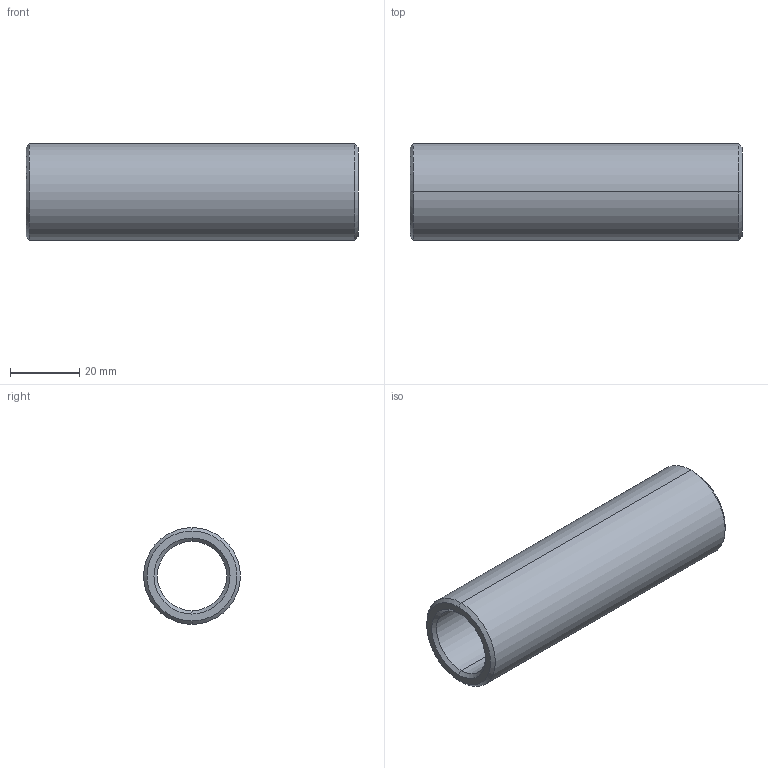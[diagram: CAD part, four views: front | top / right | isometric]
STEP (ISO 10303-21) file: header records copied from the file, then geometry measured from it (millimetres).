
FILE_DESCRIPTION(('CATIA V5 STEP Exchange'),'2;1');
FILE_NAME('C:\Users\Utente\Desktop\IO LAVORO\3D X SITO CF\X SITO\PLASTICA\352\352-20X96.stp','2021-04-15T06:14:25+00:00',('none'),('none'),'CATIA Version 5 Release 20 GA (IN-10)','CATIA V5 STEP AP203','none');
FILE_SCHEMA(('CONFIG_CONTROL_DESIGN'));
Length unit declared in the file: millimetre
Products named in the file (1): 352-20X96
Bounding box: 96 x 28 x 28 mm (x, y, z)
Volume: 28820.8 mm3; surface area: 14912 mm2
Topology: 1 solids, 1 shells, 14 faces, 44 edges, 32 vertices
Faces by surface type: cone 6, cylinder 4, plane 2, torus 2
Entity records: 634 total; most frequent: CARTESIAN_POINT 203, ORIENTED_EDGE 88, DIRECTION 64, EDGE_CURVE 44, AXIS2_PLACEMENT_3D 41, VERTEX_POINT 32, CIRCLE 26, EDGE_LOOP 16
